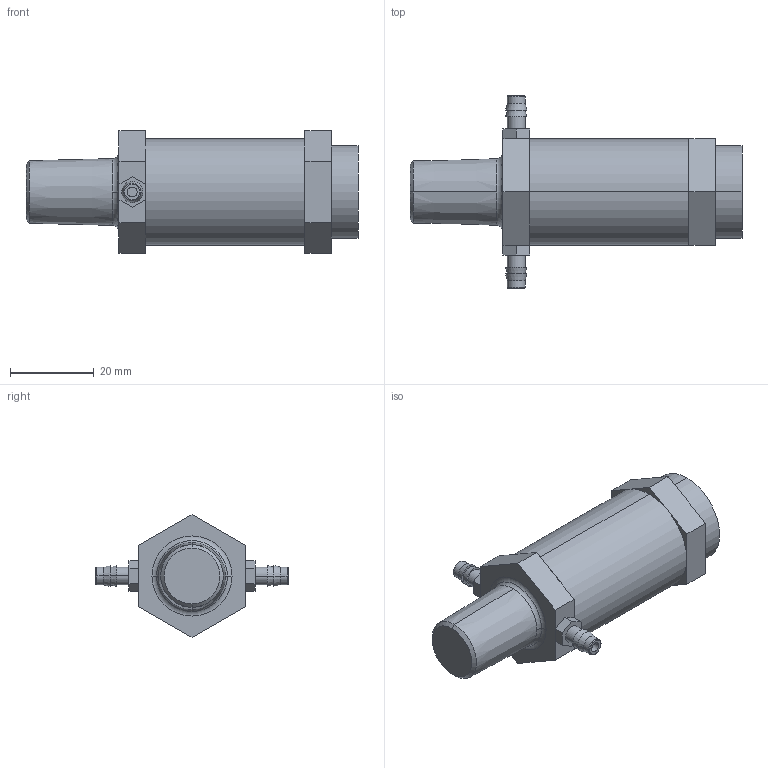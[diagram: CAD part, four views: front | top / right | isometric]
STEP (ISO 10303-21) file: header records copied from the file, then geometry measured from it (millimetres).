
FILE_DESCRIPTION((''),'2;1');
FILE_NAME('UCR2_ASM','2017-08-24T',('jennifer.elliott'),('CenterLine (Windsor) Ltd - Automation Components Division'),'PRO/ENGINEER BY PARAMETRIC TECHNOLOGY CORPORATION, 2015030','PRO/ENGINEER BY PARAMETRIC TECHNOLOGY CORPORATION, 2015030','');
FILE_SCHEMA(('AUTOMOTIVE_DESIGN { 1 0 10303 214 1 1 1 1 }'));
Length unit declared in the file: inch
Products named in the file (7): PRT0064; PRT0065; PRT0066; PRT0067; PRT0068; PRT0069; UCR2_ASM
Assembly tree (6 placements, depth 2):
  UCR2_ASM
    PRT0064
    PRT0065
    PRT0066
    PRT0067
    PRT0068
    PRT0069
Bounding box: 79.38 x 46.02 x 29.33 mm (x, y, z)
Volume: 33376.1 mm3; surface area: 10251.4 mm2
Topology: 6 solids, 6 shells, 83 faces, 177 edges, 113 vertices
Faces by surface type: plane 43, cylinder 16, torus 12, cone 12
Entity records: 2699 total; most frequent: DIRECTION 446, CARTESIAN_POINT 405, ORIENTED_EDGE 354, EDGE_CURVE 177, AXIS2_PLACEMENT_3D 173, VERTEX_POINT 113, VECTOR 100, LINE 100
